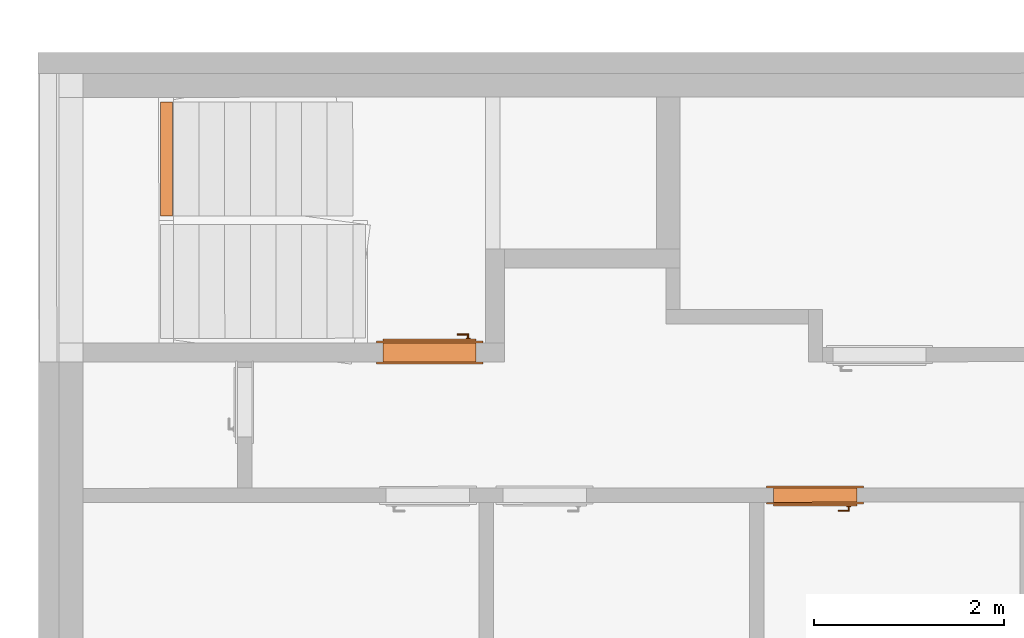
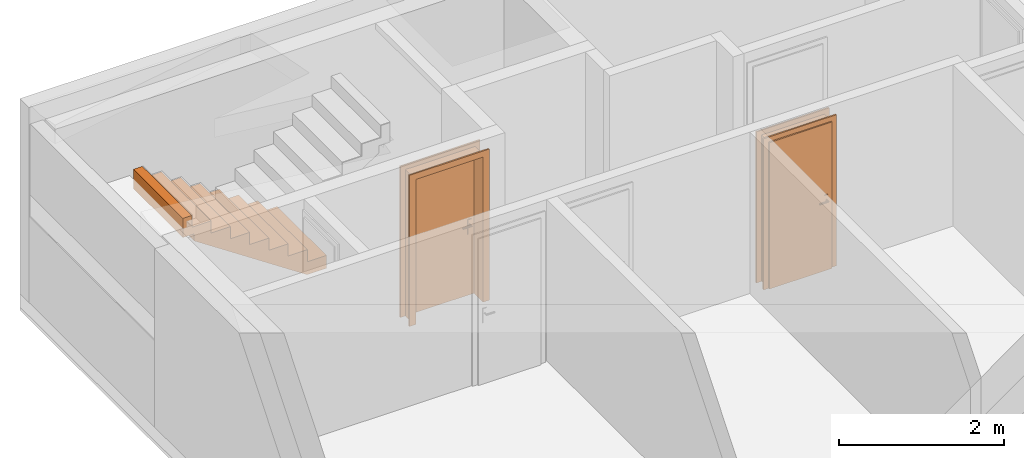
# One storey, part 6 of 9: 3 proxies.
"""IFC2X3 building model written with IfcOpenShell, lengths in metres."""

from ifc_helpers import new_model, entity, si_unit, converted_unit, derived_unit, direction, frame, origin, origin_with_axes, place, context, subcontext, project, spatial, faceted_brep, source, transform, mapped, element, save


model = new_model("IFC2X3")

# Units and contexts
model_context = context("Model", 3, precision=1e-05, world=origin(), true_north=direction((0.772621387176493, -0.634867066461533)))
body_context = subcontext(model_context, "Body", "Model", "MODEL_VIEW")
ifc_project = project(units=[si_unit("LENGTHUNIT", "METRE"), si_unit("AREAUNIT", "SQUARE_METRE"), si_unit("VOLUMEUNIT", "CUBIC_METRE"), si_unit("MASSUNIT", "GRAM", prefix="KILO"), converted_unit("PLANEANGLEUNIT", "DEGREE", entity("IfcPlaneAngleMeasure", 0.0174532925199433), si_unit("PLANEANGLEUNIT", "RADIAN"), dimensions=[0, 0, 0, 0, 0, 0, 0]), derived_unit("THERMALTRANSMITTANCEUNIT", [(si_unit("POWERUNIT", "WATT"), 1), (si_unit("THERMODYNAMICTEMPERATUREUNIT", "KELVIN"), -1), (si_unit("LENGTHUNIT", "METRE"), -2)]), derived_unit("VOLUMETRICFLOWRATEUNIT", [(si_unit("LENGTHUNIT", "METRE"), 3), (converted_unit("TIMEUNIT", "hour", entity("IfcTimeMeasure", 3600.0), si_unit("TIMEUNIT", "SECOND"), dimensions=[0, 0, 1, 0, 0, 0, 0]), -1), (si_unit("LENGTHUNIT", "METRE"), -1)])], contexts=[model_context])

# Site, building, storey
site_placement = place(None, origin())
site = spatial("IfcSite", under=ifc_project, at=site_placement, Name="Modelle auf dem Nullpunkt", CompositionType="ELEMENT")
building_placement = place(site_placement, origin())
building = spatial("IfcBuilding", under=site, at=building_placement, Name="I", CompositionType="ELEMENT")
storey_placement = place(building_placement, origin())
storey = spatial("IfcBuildingStorey", under=building, at=storey_placement, Name="UG", CompositionType="ELEMENT", Elevation=0.0)

# Proxies
shared_shape_1 = source(origin_with_axes(), body_context, "Body", "Brep", [
    faceted_brep([(0.0700000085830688, 0.190000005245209, 2.17), (0.0700000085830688, 0.190000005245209, 0.0), (0.0900000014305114, 0.190000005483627, 0.0), (0.0900000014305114, 0.190000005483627, 2.17), (0.0700000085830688, 0.0, 0.0), (0.0700000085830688, 0.0, 2.17), (0.0900000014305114, 0.0, 2.17), (0.0900000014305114, 0.0, 0.0)], [[[0, 1, 2, 3]], [[4, 5, 6, 7]], [[1, 0, 5, 4]], [[2, 1, 4, 7]], [[3, 2, 7, 6]], [[0, 3, 6, 5]]], orient=[[False], [False], [False], [False], [False], [False]]),
    faceted_brep([(0.0700000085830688, 0.190000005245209, 2.24), (0.0, 0.190000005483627, 2.24), (0.0, 0.190000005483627, 0.0), (0.0700000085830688, 0.190000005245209, 0.0), (0.0700000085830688, 0.170000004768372, 0.0), (0.0, 0.170000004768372, 0.0), (0.0, 0.170000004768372, 2.24), (0.0700000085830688, 0.170000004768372, 2.24)], [[[0, 1, 2, 3]], [[4, 5, 6, 7]], [[3, 4, 7, 0]], [[2, 5, 4, 3]], [[1, 6, 5, 2]], [[0, 7, 6, 1]]], orient=[[False], [False], [False], [False], [False], [False]]),
    faceted_brep([(0.0700000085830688, 0.0200000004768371, 2.24), (0.0, 0.0200000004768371, 2.24), (0.0, 0.0200000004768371, 0.0), (0.0700000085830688, 0.0200000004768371, 0.0), (0.0700000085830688, 0.0, 0.0), (0.0, 0.0, 0.0), (0.0, 0.0, 2.24), (0.0700000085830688, 0.0, 2.24)], [[[0, 1, 2, 3]], [[4, 5, 6, 7]], [[3, 4, 7, 0]], [[2, 5, 4, 3]], [[1, 6, 5, 2]], [[0, 7, 6, 1]]], orient=[[False], [False], [False], [False], [False], [False]]),
    faceted_brep([(0.930000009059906, 0.190000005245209, 2.17), (0.930000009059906, 0.190000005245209, 0.0), (0.950000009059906, 0.190000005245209, 0.0), (0.950000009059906, 0.190000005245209, 2.17), (0.930000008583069, 0.0, 0.0), (0.930000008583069, 0.0, 2.17), (0.950000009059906, 0.0, 2.17), (0.950000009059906, 0.0, 0.0)], [[[0, 1, 2, 3]], [[4, 5, 6, 7]], [[1, 0, 5, 4]], [[2, 1, 4, 7]], [[3, 2, 7, 6]], [[0, 3, 6, 5]]], orient=[[False], [False], [False], [False], [False], [False]]),
    faceted_brep([(0.950000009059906, 0.190000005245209, 2.24), (0.950000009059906, 0.190000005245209, 0.0), (1.02000001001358, 0.190000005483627, 0.0), (1.02000001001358, 0.190000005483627, 2.24), (0.950000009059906, 0.170000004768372, 0.0), (0.950000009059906, 0.170000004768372, 2.24), (1.02000001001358, 0.170000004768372, 2.24), (1.02000001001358, 0.170000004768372, 0.0)], [[[0, 1, 2, 3]], [[4, 5, 6, 7]], [[1, 0, 5, 4]], [[2, 1, 4, 7]], [[3, 2, 7, 6]], [[0, 3, 6, 5]]], orient=[[False], [False], [False], [False], [False], [False]]),
    faceted_brep([(0.950000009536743, 0.0200000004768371, 2.24), (0.950000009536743, 0.0200000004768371, 0.0), (1.02000001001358, 0.0200000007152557, 0.0), (1.02000001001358, 0.0200000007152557, 2.24), (0.950000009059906, 0.0, 0.0), (0.950000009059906, 0.0, 2.24), (1.02000001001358, 0.0, 2.24), (1.02000001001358, 0.0, 0.0)], [[[0, 1, 2, 3]], [[4, 5, 6, 7]], [[1, 0, 5, 4]], [[2, 1, 4, 7]], [[3, 2, 7, 6]], [[0, 3, 6, 5]]], orient=[[False], [False], [False], [False], [False], [False]]),
    faceted_brep([(0.0900000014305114, 0.190000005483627, 2.17), (0.0900000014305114, 0.190000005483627, 2.15), (0.930000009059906, 0.190000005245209, 2.15), (0.930000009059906, 0.190000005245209, 2.17), (0.0900000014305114, 0.0, 2.15), (0.0900000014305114, 0.0, 2.17), (0.930000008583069, 0.0, 2.17), (0.930000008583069, 0.0, 2.15)], [[[0, 1, 2, 3]], [[4, 5, 6, 7]], [[1, 0, 5, 4]], [[2, 1, 4, 7]], [[3, 2, 7, 6]], [[0, 3, 6, 5]]], orient=[[False], [False], [False], [False], [False], [False]]),
    faceted_brep([(0.0700000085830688, 0.190000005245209, 2.24), (0.0700000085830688, 0.190000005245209, 2.17), (0.950000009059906, 0.190000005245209, 2.17), (0.950000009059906, 0.190000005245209, 2.24), (0.0700000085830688, 0.170000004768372, 2.17), (0.0700000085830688, 0.170000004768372, 2.24), (0.950000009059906, 0.170000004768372, 2.24), (0.950000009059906, 0.170000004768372, 2.17)], [[[0, 1, 2, 3]], [[4, 5, 6, 7]], [[1, 0, 5, 4]], [[2, 1, 4, 7]], [[3, 2, 7, 6]], [[0, 3, 6, 5]]], orient=[[False], [False], [False], [False], [False], [False]]),
    faceted_brep([(0.0700000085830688, 0.0200000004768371, 2.24), (0.0700000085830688, 0.0200000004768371, 2.17), (0.950000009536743, 0.0200000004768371, 2.17), (0.950000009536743, 0.0200000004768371, 2.24), (0.0700000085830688, 0.0, 2.17), (0.0700000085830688, 0.0, 2.24), (0.950000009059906, 0.0, 2.24), (0.950000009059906, 0.0, 2.17)], [[[0, 1, 2, 3]], [[4, 5, 6, 7]], [[1, 0, 5, 4]], [[2, 1, 4, 7]], [[3, 2, 7, 6]], [[0, 3, 6, 5]]], orient=[[False], [False], [False], [False], [False], [False]]),
    faceted_brep([(0.0700000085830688, 0.210000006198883, 2.17), (0.0700000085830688, 0.210000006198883, 0.0), (0.950000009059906, 0.210000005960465, 0.0), (0.950000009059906, 0.210000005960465, 2.17), (0.0700000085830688, 0.170000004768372, 0.0), (0.0700000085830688, 0.170000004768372, 2.17), (0.950000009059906, 0.170000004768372, 2.17), (0.950000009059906, 0.170000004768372, 0.0)], [[[0, 1, 2, 3]], [[4, 5, 6, 7]], [[1, 0, 5, 4]], [[2, 1, 4, 7]], [[3, 2, 7, 6]], [[0, 3, 6, 5]]], orient=[[False], [False], [False], [False], [False], [False]]),
    faceted_brep([(0.130000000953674, 0.170000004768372, 1.125), (0.130000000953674, 0.170000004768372, 0.91), (0.180000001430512, 0.170000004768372, 0.91), (0.180000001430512, 0.170000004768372, 1.125), (0.130000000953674, 0.160000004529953, 0.91), (0.130000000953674, 0.160000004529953, 1.125), (0.180000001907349, 0.160000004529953, 1.125), (0.180000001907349, 0.160000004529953, 0.91)], [[[0, 1, 2, 3]], [[4, 5, 6, 7]], [[1, 0, 5, 4]], [[2, 1, 4, 7]], [[3, 2, 7, 6]], [[0, 3, 6, 5]]], orient=[[False], [False], [False], [False], [False], [False]]),
    faceted_brep([(0.155000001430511, 0.160000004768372, 1.06), (0.150000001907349, 0.160000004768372, 1.05866025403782), (0.146339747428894, 0.160000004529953, 1.055), (0.145000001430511, 0.160000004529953, 1.05), (0.146339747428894, 0.160000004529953, 1.045), (0.150000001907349, 0.160000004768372, 1.04133974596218), (0.155000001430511, 0.160000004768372, 1.04), (0.160000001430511, 0.160000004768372, 1.04133974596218), (0.163660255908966, 0.160000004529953, 1.045), (0.165000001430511, 0.160000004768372, 1.05), (0.163660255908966, 0.160000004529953, 1.055), (0.160000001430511, 0.160000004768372, 1.05866025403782), (0.155000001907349, 0.12000000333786, 1.06), (0.150000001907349, 0.115000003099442, 1.05866025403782), (0.146339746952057, 0.111339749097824, 1.055), (0.145000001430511, 0.11000000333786, 1.05), (0.146339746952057, 0.111339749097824, 1.045), (0.150000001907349, 0.115000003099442, 1.04133974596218), (0.155000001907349, 0.12000000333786, 1.04), (0.160000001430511, 0.125000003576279, 1.04133974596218), (0.163660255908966, 0.128660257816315, 1.045), (0.165000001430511, 0.130000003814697, 1.05), (0.163660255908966, 0.128660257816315, 1.055), (0.160000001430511, 0.125000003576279, 1.05866025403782), (0.270000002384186, 0.12000000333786, 1.06), (0.270000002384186, 0.125000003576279, 1.05866025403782), (0.270000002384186, 0.128660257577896, 1.055), (0.270000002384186, 0.130000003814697, 1.05), (0.270000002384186, 0.128660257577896, 1.045), (0.270000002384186, 0.125000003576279, 1.04133974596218), (0.270000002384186, 0.12000000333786, 1.04), (0.270000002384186, 0.115000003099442, 1.04133974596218), (0.270000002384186, 0.111339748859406, 1.045), (0.270000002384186, 0.110000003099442, 1.05), (0.270000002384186, 0.111339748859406, 1.055), (0.270000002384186, 0.115000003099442, 1.05866025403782)], [[[0, 1, 2, 3, 4, 5, 6, 7, 8, 9, 10, 11]], [[0, 12, 13, 1]], [[1, 13, 14, 2]], [[2, 14, 15, 3]], [[3, 15, 16, 4]], [[4, 16, 17, 5]], [[5, 17, 18, 6]], [[6, 18, 19, 7]], [[7, 19, 20, 8]], [[8, 20, 21, 9]], [[9, 21, 22, 10]], [[10, 22, 23, 11]], [[11, 23, 12, 0]], [[24, 25, 26, 27, 28, 29, 30, 31, 32, 33, 34, 35]], [[12, 24, 35, 13]], [[13, 35, 34, 14]], [[14, 34, 33, 15]], [[15, 33, 32, 16]], [[16, 32, 31, 17]], [[17, 31, 30, 18]], [[18, 30, 29, 19]], [[19, 29, 28, 20]], [[20, 28, 27, 21]], [[21, 27, 26, 22]], [[22, 26, 25, 23]], [[23, 25, 24, 12]]], orient=[[False], [False], [False], [False], [False], [False], [False], [False], [False], [False], [False], [False], [False], [False], [False], [False], [False], [False], [False], [False], [False], [False], [False], [False], [False], [False]]),
    faceted_brep([(0.130000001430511, 0.210000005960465, 1.125), (0.180000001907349, 0.210000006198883, 1.125), (0.180000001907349, 0.210000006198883, 0.91), (0.130000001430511, 0.210000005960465, 0.91), (0.130000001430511, 0.220000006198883, 0.91), (0.180000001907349, 0.220000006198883, 0.91), (0.180000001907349, 0.220000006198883, 1.125), (0.130000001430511, 0.220000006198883, 1.125)], [[[0, 1, 2, 3]], [[4, 5, 6, 7]], [[3, 4, 7, 0]], [[2, 5, 4, 3]], [[1, 6, 5, 2]], [[0, 7, 6, 1]]], orient=[[False], [False], [False], [False], [False], [False]]),
    faceted_brep([(0.155000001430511, 0.220000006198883, 1.06), (0.160000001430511, 0.220000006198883, 1.05866025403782), (0.163660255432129, 0.220000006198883, 1.055), (0.165000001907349, 0.220000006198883, 1.05), (0.163660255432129, 0.220000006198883, 1.045), (0.160000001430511, 0.220000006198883, 1.04133974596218), (0.155000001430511, 0.220000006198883, 1.04), (0.150000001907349, 0.220000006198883, 1.04133974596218), (0.146339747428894, 0.220000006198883, 1.045), (0.145000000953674, 0.220000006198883, 1.05), (0.146339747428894, 0.220000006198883, 1.055), (0.150000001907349, 0.220000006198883, 1.05866025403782), (0.150000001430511, 0.265000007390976, 1.05866025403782), (0.155000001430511, 0.260000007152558, 1.06), (0.146339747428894, 0.268660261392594, 1.055), (0.145000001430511, 0.270000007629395, 1.05), (0.146339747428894, 0.268660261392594, 1.045), (0.150000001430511, 0.265000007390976, 1.04133974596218), (0.155000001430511, 0.260000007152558, 1.04), (0.160000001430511, 0.255000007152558, 1.04133974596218), (0.163660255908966, 0.25133975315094, 1.045), (0.165000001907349, 0.250000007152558, 1.05), (0.163660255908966, 0.25133975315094, 1.055), (0.160000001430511, 0.255000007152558, 1.05866025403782), (0.270000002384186, 0.260000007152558, 1.06), (0.270000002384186, 0.265000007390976, 1.05866025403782), (0.270000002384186, 0.268660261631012, 1.055), (0.270000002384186, 0.270000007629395, 1.05), (0.270000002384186, 0.268660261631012, 1.045), (0.270000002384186, 0.265000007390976, 1.04133974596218), (0.270000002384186, 0.260000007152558, 1.04), (0.270000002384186, 0.255000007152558, 1.04133974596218), (0.270000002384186, 0.25133975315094, 1.045), (0.270000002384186, 0.250000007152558, 1.05), (0.270000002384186, 0.25133975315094, 1.055), (0.270000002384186, 0.255000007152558, 1.05866025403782)], [[[0, 1, 2, 3, 4, 5, 6, 7, 8, 9, 10, 11]], [[0, 11, 12, 13]], [[11, 10, 14, 12]], [[10, 9, 15, 14]], [[9, 8, 16, 15]], [[8, 7, 17, 16]], [[7, 6, 18, 17]], [[6, 5, 19, 18]], [[5, 4, 20, 19]], [[4, 3, 21, 20]], [[3, 2, 22, 21]], [[2, 1, 23, 22]], [[1, 0, 13, 23]], [[24, 25, 26, 27, 28, 29, 30, 31, 32, 33, 34, 35]], [[13, 12, 25, 24]], [[12, 14, 26, 25]], [[14, 15, 27, 26]], [[15, 16, 28, 27]], [[16, 17, 29, 28]], [[17, 18, 30, 29]], [[18, 19, 31, 30]], [[19, 20, 32, 31]], [[20, 21, 33, 32]], [[21, 22, 34, 33]], [[22, 23, 35, 34]], [[23, 13, 24, 35]]], orient=[[False], [False], [False], [False], [False], [False], [False], [False], [False], [False], [False], [False], [False], [False], [False], [False], [False], [False], [False], [False], [False], [False], [False], [False], [False], [False]]),
])
proxy_1_placement = place(storey_placement, frame((38.0434671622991, -2.16031917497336, 433.22), z_axis=(0.0, 0.0, 1.0), x_axis=(-0.999999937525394, -0.000353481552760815, 0.0)))
element("IfcBuildingElementProxy", 1, at=proxy_1_placement, inside=storey, Name="1flg Weiß UZ außen", context=body_context, shape_type="MappedRepresentation", body=[
    mapped(shared_shape_1, transform((0.0, 0.0, 0.0), x_axis=(1.0, 0.0, 0.0), y_axis=(0.0, 1.0, 0.0), z_axis=(0.0, 0.0, 1.0), scale=1.0)),
])
shared_shape_2 = source(origin_with_axes(), body_context, "Body", "Brep", [
    faceted_brep([(1.05000000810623, 0.240000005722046, 2.17), (1.03000000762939, 0.240000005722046, 2.17), (1.03000000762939, 0.240000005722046, 0.0), (1.05000000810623, 0.240000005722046, 0.0), (1.05000000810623, 0.0, 0.0), (1.03000000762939, 0.0, 0.0), (1.03000000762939, 0.0, 2.17), (1.05000000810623, 0.0, 2.17)], [[[0, 1, 2, 3]], [[4, 5, 6, 7]], [[3, 4, 7, 0]], [[2, 5, 4, 3]], [[1, 6, 5, 2]], [[0, 7, 6, 1]]], orient=[[False], [False], [False], [False], [False], [False]]),
    faceted_brep([(1.05000000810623, 0.240000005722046, 2.24), (1.05000000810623, 0.240000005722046, 0.0), (1.12000000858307, 0.240000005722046, 0.0), (1.12000000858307, 0.240000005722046, 2.24), (1.05000000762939, 0.220000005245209, 0.0), (1.05000000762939, 0.220000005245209, 2.24), (1.12000000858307, 0.220000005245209, 2.24), (1.12000000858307, 0.220000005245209, 0.0)], [[[0, 1, 2, 3]], [[4, 5, 6, 7]], [[1, 0, 5, 4]], [[2, 1, 4, 7]], [[3, 2, 7, 6]], [[0, 3, 6, 5]]], orient=[[False], [False], [False], [False], [False], [False]]),
    faceted_brep([(1.05000000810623, 0.0200000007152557, 2.24), (1.05000000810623, 0.0200000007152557, 0.0), (1.12000000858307, 0.0200000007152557, 0.0), (1.12000000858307, 0.0200000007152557, 2.24), (1.05000000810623, 0.0, 0.0), (1.05000000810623, 0.0, 2.24), (1.12000000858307, 0.0, 2.24), (1.12000000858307, 0.0, 0.0)], [[[0, 1, 2, 3]], [[4, 5, 6, 7]], [[1, 0, 5, 4]], [[2, 1, 4, 7]], [[3, 2, 7, 6]], [[0, 3, 6, 5]]], orient=[[False], [False], [False], [False], [False], [False]]),
    faceted_brep([(0.0900000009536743, 0.240000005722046, 2.17), (0.0700000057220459, 0.240000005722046, 2.17), (0.0700000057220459, 0.240000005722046, 0.0), (0.0900000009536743, 0.240000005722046, 0.0), (0.0900000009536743, 0.0, 0.0), (0.0700000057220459, 0.0, 0.0), (0.0700000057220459, 0.0, 2.17), (0.0900000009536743, 0.0, 2.17)], [[[0, 1, 2, 3]], [[4, 5, 6, 7]], [[3, 4, 7, 0]], [[2, 5, 4, 3]], [[1, 6, 5, 2]], [[0, 7, 6, 1]]], orient=[[False], [False], [False], [False], [False], [False]]),
    faceted_brep([(0.0700000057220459, 0.240000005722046, 2.24), (0.0, 0.240000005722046, 2.24), (0.0, 0.240000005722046, 0.0), (0.0700000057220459, 0.240000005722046, 0.0), (0.0700000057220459, 0.220000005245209, 0.0), (0.0, 0.220000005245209, 0.0), (0.0, 0.220000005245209, 2.24), (0.0700000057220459, 0.220000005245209, 2.24)], [[[0, 1, 2, 3]], [[4, 5, 6, 7]], [[3, 4, 7, 0]], [[2, 5, 4, 3]], [[1, 6, 5, 2]], [[0, 7, 6, 1]]], orient=[[False], [False], [False], [False], [False], [False]]),
    faceted_brep([(0.0700000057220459, 0.0200000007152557, 2.24), (0.0, 0.0200000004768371, 2.24), (0.0, 0.0200000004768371, 0.0), (0.0700000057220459, 0.0200000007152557, 0.0), (0.0700000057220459, 0.0, 0.0), (0.0, 0.0, 0.0), (0.0, 0.0, 2.24), (0.0700000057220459, 0.0, 2.24)], [[[0, 1, 2, 3]], [[4, 5, 6, 7]], [[3, 4, 7, 0]], [[2, 5, 4, 3]], [[1, 6, 5, 2]], [[0, 7, 6, 1]]], orient=[[False], [False], [False], [False], [False], [False]]),
    faceted_brep([(1.03000000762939, 0.240000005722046, 2.17), (0.0900000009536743, 0.240000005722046, 2.17), (0.0900000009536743, 0.240000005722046, 2.15), (1.03000000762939, 0.240000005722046, 2.15), (1.03000000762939, 0.0, 2.15), (0.0900000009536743, 0.0, 2.15), (0.0900000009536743, 0.0, 2.17), (1.03000000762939, 0.0, 2.17)], [[[0, 1, 2, 3]], [[4, 5, 6, 7]], [[3, 4, 7, 0]], [[2, 5, 4, 3]], [[1, 6, 5, 2]], [[0, 7, 6, 1]]], orient=[[False], [False], [False], [False], [False], [False]]),
    faceted_brep([(1.05000000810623, 0.240000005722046, 2.24), (0.0700000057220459, 0.240000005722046, 2.24), (0.0700000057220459, 0.240000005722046, 2.17), (1.05000000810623, 0.240000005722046, 2.17), (1.05000000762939, 0.220000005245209, 2.17), (0.0700000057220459, 0.220000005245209, 2.17), (0.0700000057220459, 0.220000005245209, 2.24), (1.05000000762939, 0.220000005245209, 2.24)], [[[0, 1, 2, 3]], [[4, 5, 6, 7]], [[3, 4, 7, 0]], [[2, 5, 4, 3]], [[1, 6, 5, 2]], [[0, 7, 6, 1]]], orient=[[False], [False], [False], [False], [False], [False]]),
    faceted_brep([(1.05000000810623, 0.0200000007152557, 2.24), (0.0700000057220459, 0.0200000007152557, 2.24), (0.0700000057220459, 0.0200000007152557, 2.17), (1.05000000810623, 0.0200000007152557, 2.17), (1.05000000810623, 0.0, 2.17), (0.0700000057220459, 0.0, 2.17), (0.0700000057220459, 0.0, 2.24), (1.05000000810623, 0.0, 2.24)], [[[0, 1, 2, 3]], [[4, 5, 6, 7]], [[3, 4, 7, 0]], [[2, 5, 4, 3]], [[1, 6, 5, 2]], [[0, 7, 6, 1]]], orient=[[False], [False], [False], [False], [False], [False]]),
    faceted_brep([(1.05000000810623, 0.260000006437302, 2.17), (0.0700000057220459, 0.260000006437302, 2.17), (0.0700000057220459, 0.260000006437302, 0.0), (1.05000000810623, 0.260000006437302, 0.0), (1.05000000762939, 0.220000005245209, 0.0), (0.0700000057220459, 0.220000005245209, 0.0), (0.0700000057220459, 0.220000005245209, 2.17), (1.05000000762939, 0.220000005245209, 2.17)], [[[0, 1, 2, 3]], [[4, 5, 6, 7]], [[3, 4, 7, 0]], [[2, 5, 4, 3]], [[1, 6, 5, 2]], [[0, 7, 6, 1]]], orient=[[False], [False], [False], [False], [False], [False]]),
    faceted_brep([(0.990000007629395, 0.220000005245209, 1.125), (0.940000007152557, 0.220000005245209, 1.125), (0.940000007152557, 0.220000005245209, 0.91), (0.990000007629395, 0.220000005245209, 0.91), (0.990000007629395, 0.21000000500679, 0.91), (0.940000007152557, 0.21000000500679, 0.91), (0.940000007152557, 0.21000000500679, 1.125), (0.990000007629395, 0.21000000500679, 1.125)], [[[0, 1, 2, 3]], [[4, 5, 6, 7]], [[3, 4, 7, 0]], [[2, 5, 4, 3]], [[1, 6, 5, 2]], [[0, 7, 6, 1]]], orient=[[False], [False], [False], [False], [False], [False]]),
    faceted_brep([(0.965000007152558, 0.21000000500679, 1.06), (0.960000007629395, 0.21000000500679, 1.05866025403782), (0.95633975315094, 0.21000000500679, 1.055), (0.955000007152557, 0.21000000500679, 1.05), (0.95633975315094, 0.21000000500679, 1.045), (0.960000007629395, 0.21000000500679, 1.04133974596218), (0.965000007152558, 0.21000000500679, 1.04), (0.970000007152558, 0.21000000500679, 1.04133974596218), (0.973660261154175, 0.21000000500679, 1.045), (0.975000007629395, 0.21000000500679, 1.05), (0.973660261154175, 0.21000000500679, 1.055), (0.970000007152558, 0.21000000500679, 1.05866025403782), (0.970000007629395, 0.165000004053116, 1.05866025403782), (0.965000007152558, 0.170000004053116, 1.06), (0.973660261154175, 0.161339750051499, 1.055), (0.975000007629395, 0.160000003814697, 1.05), (0.973660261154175, 0.161339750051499, 1.045), (0.970000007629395, 0.165000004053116, 1.04133974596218), (0.965000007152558, 0.170000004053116, 1.04), (0.960000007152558, 0.175000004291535, 1.04133974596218), (0.95633975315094, 0.178660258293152, 1.045), (0.95500000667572, 0.180000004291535, 1.05), (0.95633975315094, 0.178660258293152, 1.055), (0.960000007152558, 0.175000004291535, 1.05866025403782), (0.850000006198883, 0.170000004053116, 1.06), (0.850000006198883, 0.165000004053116, 1.05866025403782), (0.850000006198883, 0.161339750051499, 1.055), (0.850000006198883, 0.160000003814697, 1.05), (0.850000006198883, 0.161339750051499, 1.045), (0.850000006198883, 0.165000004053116, 1.04133974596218), (0.850000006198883, 0.170000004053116, 1.04), (0.850000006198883, 0.175000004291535, 1.04133974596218), (0.85000000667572, 0.178660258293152, 1.045), (0.850000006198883, 0.180000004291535, 1.05), (0.85000000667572, 0.178660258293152, 1.055), (0.850000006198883, 0.175000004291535, 1.05866025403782)], [[[0, 1, 2, 3, 4, 5, 6, 7, 8, 9, 10, 11]], [[0, 11, 12, 13]], [[11, 10, 14, 12]], [[10, 9, 15, 14]], [[9, 8, 16, 15]], [[8, 7, 17, 16]], [[7, 6, 18, 17]], [[6, 5, 19, 18]], [[5, 4, 20, 19]], [[4, 3, 21, 20]], [[3, 2, 22, 21]], [[2, 1, 23, 22]], [[1, 0, 13, 23]], [[24, 25, 26, 27, 28, 29, 30, 31, 32, 33, 34, 35]], [[13, 12, 25, 24]], [[12, 14, 26, 25]], [[14, 15, 27, 26]], [[15, 16, 28, 27]], [[16, 17, 29, 28]], [[17, 18, 30, 29]], [[18, 19, 31, 30]], [[19, 20, 32, 31]], [[20, 21, 33, 32]], [[21, 22, 34, 33]], [[22, 23, 35, 34]], [[23, 13, 24, 35]]], orient=[[False], [False], [False], [False], [False], [False], [False], [False], [False], [False], [False], [False], [False], [False], [False], [False], [False], [False], [False], [False], [False], [False], [False], [False], [False], [False]]),
    faceted_brep([(0.990000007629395, 0.260000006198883, 1.125), (0.990000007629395, 0.260000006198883, 0.91), (0.940000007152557, 0.260000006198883, 0.91), (0.940000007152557, 0.260000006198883, 1.125), (0.990000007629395, 0.270000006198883, 0.91), (0.990000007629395, 0.270000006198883, 1.125), (0.940000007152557, 0.270000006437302, 1.125), (0.940000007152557, 0.270000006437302, 0.91)], [[[0, 1, 2, 3]], [[4, 5, 6, 7]], [[1, 0, 5, 4]], [[2, 1, 4, 7]], [[3, 2, 7, 6]], [[0, 3, 6, 5]]], orient=[[False], [False], [False], [False], [False], [False]]),
    faceted_brep([(0.965000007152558, 0.270000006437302, 1.06), (0.970000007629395, 0.270000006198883, 1.05866025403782), (0.973660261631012, 0.270000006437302, 1.055), (0.975000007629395, 0.270000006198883, 1.05), (0.973660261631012, 0.270000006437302, 1.045), (0.970000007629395, 0.270000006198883, 1.04133974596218), (0.965000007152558, 0.270000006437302, 1.04), (0.960000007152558, 0.270000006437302, 1.04133974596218), (0.95633975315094, 0.270000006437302, 1.045), (0.955000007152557, 0.270000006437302, 1.05), (0.95633975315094, 0.270000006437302, 1.055), (0.960000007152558, 0.270000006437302, 1.05866025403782), (0.965000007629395, 0.310000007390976, 1.06), (0.970000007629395, 0.315000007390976, 1.05866025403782), (0.973660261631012, 0.318660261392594, 1.055), (0.975000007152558, 0.320000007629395, 1.05), (0.973660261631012, 0.318660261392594, 1.045), (0.970000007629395, 0.315000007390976, 1.04133974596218), (0.965000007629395, 0.310000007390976, 1.04), (0.960000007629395, 0.305000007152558, 1.04133974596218), (0.956339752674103, 0.30133975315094, 1.045), (0.955000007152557, 0.300000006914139, 1.05), (0.956339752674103, 0.30133975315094, 1.055), (0.960000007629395, 0.305000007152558, 1.05866025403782), (0.850000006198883, 0.310000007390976, 1.06), (0.850000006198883, 0.305000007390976, 1.05866025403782), (0.85000000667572, 0.30133975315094, 1.055), (0.850000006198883, 0.300000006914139, 1.05), (0.85000000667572, 0.30133975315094, 1.045), (0.850000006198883, 0.305000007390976, 1.04133974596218), (0.850000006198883, 0.310000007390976, 1.04), (0.850000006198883, 0.315000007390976, 1.04133974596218), (0.850000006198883, 0.318660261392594, 1.045), (0.850000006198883, 0.320000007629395, 1.05), (0.850000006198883, 0.318660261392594, 1.055), (0.850000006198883, 0.315000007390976, 1.05866025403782)], [[[0, 1, 2, 3, 4, 5, 6, 7, 8, 9, 10, 11]], [[0, 12, 13, 1]], [[1, 13, 14, 2]], [[2, 14, 15, 3]], [[3, 15, 16, 4]], [[4, 16, 17, 5]], [[5, 17, 18, 6]], [[6, 18, 19, 7]], [[7, 19, 20, 8]], [[8, 20, 21, 9]], [[9, 21, 22, 10]], [[10, 22, 23, 11]], [[11, 23, 12, 0]], [[24, 25, 26, 27, 28, 29, 30, 31, 32, 33, 34, 35]], [[12, 24, 35, 13]], [[13, 35, 34, 14]], [[14, 34, 33, 15]], [[15, 33, 32, 16]], [[16, 32, 31, 17]], [[17, 31, 30, 18]], [[18, 30, 29, 19]], [[19, 29, 28, 20]], [[20, 28, 27, 21]], [[21, 27, 26, 22]], [[22, 26, 25, 23]], [[23, 25, 24, 12]]], orient=[[False], [False], [False], [False], [False], [False], [False], [False], [False], [False], [False], [False], [False], [False], [False], [False], [False], [False], [False], [False], [False], [False], [False], [False], [False], [False]]),
])
proxy_2_placement = place(storey_placement, frame((32.9130114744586, -0.872132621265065, 433.22), z_axis=(0.0, 0.0, 1.0), x_axis=(0.999999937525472, 0.000353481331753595, 0.0)))
element("IfcBuildingElementProxy", 2, at=proxy_2_placement, inside=storey, Name="1flg Weiß UZ außen", context=body_context, shape_type="MappedRepresentation", body=[
    mapped(shared_shape_2, transform((0.0, 0.0, 0.0), x_axis=(1.0, 0.0, 0.0), y_axis=(0.0, 1.0, 0.0), z_axis=(0.0, 0.0, 1.0), scale=1.0)),
])
proxy_3_placement = place(storey_placement, frame((30.6368631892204, 0.687063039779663, 433.229991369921)))
element("IfcBuildingElementProxy", 3, at=proxy_3_placement, inside=storey, context=body_context, shape_type="Brep", body=[
    faceted_brep([(0.93502684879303, 1.20033044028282, 0.910019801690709), (0.665018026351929, 1.20023499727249, 0.910019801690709), (0.665018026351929, 1.20023499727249, 1.09002569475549), (0.395013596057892, 1.20013955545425, 1.09002569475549), (0.395013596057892, 1.20013955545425, 1.27003158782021), (0.125005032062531, 1.20004411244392, 1.27003158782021), (0.125005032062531, 1.20004411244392, 1.44504179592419), (0.0, 1.19999992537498, 1.44504179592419), (0.0, 1.19999992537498, 1.16004693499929), (0.155007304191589, 1.20005471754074, 1.16004693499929), (0.155007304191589, 1.20005471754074, 1.05772453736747), (1.74159840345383, 1.20061554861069, 0.0), (2.01503604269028, 1.20071220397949, 0.0), (2.01503604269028, 1.20071220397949, 0.189996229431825), (1.74502773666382, 1.20061676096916, 0.189996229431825), (1.74502773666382, 1.20061676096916, 0.370002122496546), (1.47501891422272, 1.20052131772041, 0.370002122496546), (1.47501891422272, 1.20052131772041, 0.550008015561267), (1.20503127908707, 1.20042588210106, 0.550008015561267), (1.20503127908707, 1.20042588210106, 0.730013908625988), (0.93502684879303, 1.20033044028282, 0.730013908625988), (0.935451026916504, 0.000330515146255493, 0.910019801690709), (0.935451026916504, 0.000330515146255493, 0.730013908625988), (1.20545545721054, 0.000425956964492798, 0.730013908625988), (1.20545545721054, 0.000425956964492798, 0.550008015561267), (1.47544309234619, 0.000521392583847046, 0.550008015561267), (1.47544309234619, 0.000521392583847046, 0.370002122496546), (1.74545191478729, 0.000616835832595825, 0.370002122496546), (1.74545191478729, 0.000616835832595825, 0.189996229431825), (2.01546022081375, 0.000712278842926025, 0.189996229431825), (2.01546022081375, 0.000712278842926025, 0.0), (1.7420225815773, 0.000615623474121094, 0.0), (0.155431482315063, 5.47924041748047e-05, 1.05772453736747), (0.155431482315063, 5.47924041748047e-05, 1.16004693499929), (0.000424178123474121, 0.0, 1.16004693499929), (0.000424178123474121, 0.0, 1.44504179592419), (0.125429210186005, 4.41873073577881e-05, 1.44504179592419), (0.125429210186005, 4.41873073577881e-05, 1.27003158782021), (0.395437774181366, 0.000139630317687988, 1.27003158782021), (0.395437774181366, 0.000139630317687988, 1.09002569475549), (0.665442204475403, 0.000235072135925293, 1.09002569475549), (0.665442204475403, 0.000235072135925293, 0.910019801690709)], [[[0, 1, 2, 3, 4, 5, 6, 7, 8, 9, 10, 11, 12, 13, 14, 15, 16, 17, 18, 19, 20]], [[21, 22, 23, 24, 25, 26, 27, 28, 29, 30, 31, 32, 33, 34, 35, 36, 37, 38, 39, 40, 41]], [[41, 1, 0, 21]], [[40, 2, 1, 41]], [[39, 3, 2, 40]], [[38, 4, 3, 39]], [[37, 5, 4, 38]], [[36, 6, 5, 37]], [[35, 7, 6, 36]], [[34, 8, 7, 35]], [[33, 9, 8, 34]], [[32, 10, 9, 33]], [[31, 11, 10, 32]], [[30, 12, 11, 31]], [[29, 13, 12, 30]], [[28, 14, 13, 29]], [[27, 15, 14, 28]], [[26, 16, 15, 27]], [[25, 17, 16, 26]], [[24, 18, 17, 25]], [[23, 19, 18, 24]], [[22, 20, 19, 23]], [[21, 0, 20, 22]]], orient=[[False], [False], [False], [False], [False], [False], [False], [False], [False], [False], [False], [False], [False], [False], [False], [False], [False], [False], [False], [False], [False], [False], [False]]),
])

save(model, "model.ifc")
